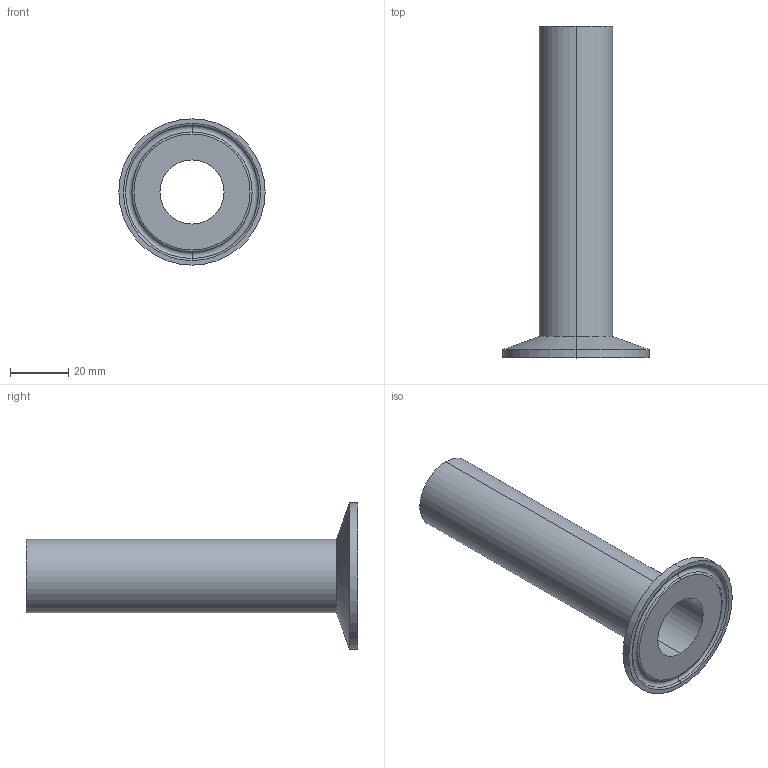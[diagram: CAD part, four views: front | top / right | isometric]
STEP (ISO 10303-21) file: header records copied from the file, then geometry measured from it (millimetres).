
FILE_DESCRIPTION (( 'STEP AP203' ), '1' );
FILE_NAME ('EG14HT1.0.STEP', '2018-05-01T13:18:59', ( 'vneprd' ), ( 'Microsoft' ), 'SwSTEP 2.0', 'SolidWorks 2014', '' );
FILE_SCHEMA (( 'CONFIG_CONTROL_DESIGN' ));
Length unit declared in the file: inch
Products named in the file (1): EG14HT1.0
Bounding box: 50.39 x 114.3 x 50.39 mm (x, y, z)
Volume: 20999.3 mm3; surface area: 20366.5 mm2
Topology: 1 solids, 1 shells, 17 faces, 34 edges, 20 vertices
Faces by surface type: cylinder 6, torus 6, plane 3, cone 2
Entity records: 533 total; most frequent: DIRECTION 96, CARTESIAN_POINT 72, ORIENTED_EDGE 68, AXIS2_PLACEMENT_3D 44, EDGE_CURVE 34, CIRCLE 26, VERTEX_POINT 20, EDGE_LOOP 20
